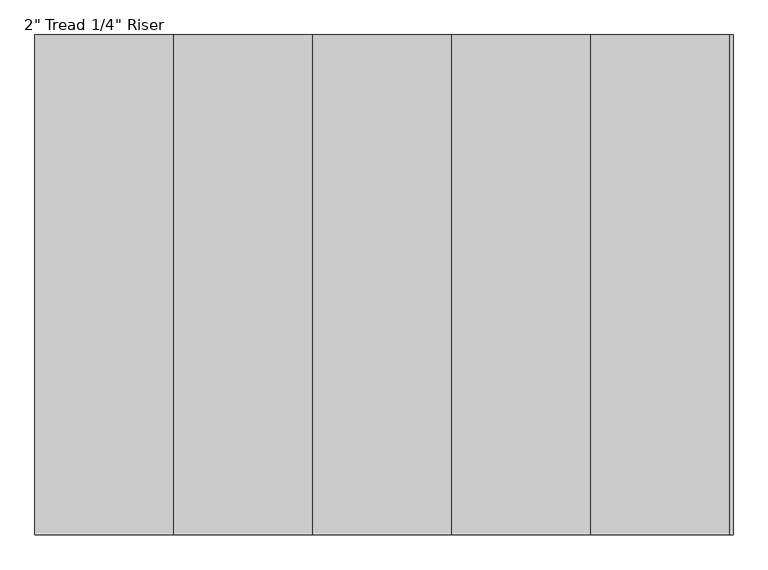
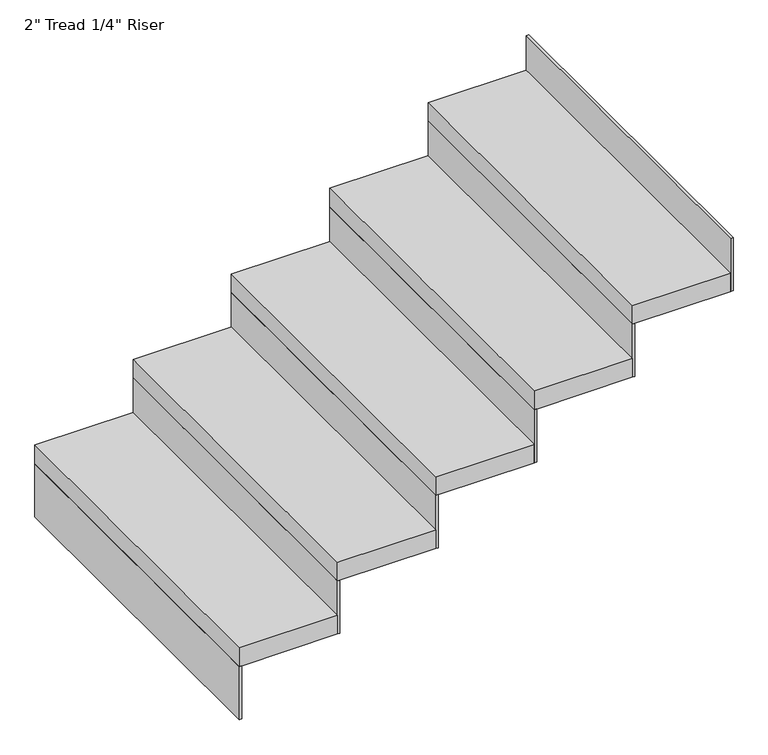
"""IFC4 building model written with IfcOpenShell, lengths in millimetres: stair flight geometry."""

from ifc_helpers import new_model, si_unit, frame, origin, place, context, project, spatial, polyline, outline, extrude, source, transform, mapped, element, save


def stair_flight_d8697efd(model_context):
    return source(origin(), model_context, "Body", "SweptSolid", [
        extrude(outline(polyline([(162625.1811068, -18868.6990002), (162618.8311068, -18868.6990002), (162618.8311068, -17954.2990002), (162625.1811068, -17954.2990002), (162625.1811068, -18868.6990002)])), frame((0.0, 0.0, 2126.3428571), z_axis=(0.0, 0.0, 1.0), x_axis=(1.0, 0.0, 0.0)), (0.0, 0.0, 1.0), 145.1428571),
        extrude(outline(polyline([(162872.8311068, -17954.2990002), (162872.8311068, -18868.6990002), (162618.8311068, -18868.6990002), (162618.8311068, -17954.2990002), (162872.8311068, -17954.2990002)])), frame((0.0, 0.0, 2271.4857143), z_axis=(0.0, 0.0, 1.0), x_axis=(1.0, 0.0, 0.0)), (0.0, 0.0, 1.0), 50.8),
        extrude(outline(polyline([(162879.1811068, -18868.6990002), (162872.8311068, -18868.6990002), (162872.8311068, -17954.2990002), (162879.1811068, -17954.2990002), (162879.1811068, -18868.6990002)])), frame((0.0, 0.0, 2271.4857143), z_axis=(0.0, 0.0, 1.0), x_axis=(1.0, 0.0, 0.0)), (0.0, 0.0, 1.0), 145.1428571),
        extrude(outline(polyline([(163126.8311068, -17954.2990002), (163126.8311068, -18868.6990002), (162872.8311068, -18868.6990002), (162872.8311068, -17954.2990002), (163126.8311068, -17954.2990002)])), frame((0.0, 0.0, 2416.6285714), z_axis=(0.0, 0.0, 1.0), x_axis=(1.0, 0.0, 0.0)), (0.0, 0.0, 1.0), 50.8),
        extrude(outline(polyline([(163133.1811068, -18868.6990002), (163126.8311068, -18868.6990002), (163126.8311068, -17954.2990002), (163133.1811068, -17954.2990002), (163133.1811068, -18868.6990002)])), frame((0.0, 0.0, 2416.6285714), z_axis=(0.0, 0.0, 1.0), x_axis=(1.0, 0.0, 0.0)), (0.0, 0.0, 1.0), 145.1428571),
        extrude(outline(polyline([(163380.8311068, -17954.2990002), (163380.8311068, -18868.6990002), (163126.8311068, -18868.6990002), (163126.8311068, -17954.2990002), (163380.8311068, -17954.2990002)])), frame((0.0, 0.0, 2561.7714286), z_axis=(0.0, 0.0, 1.0), x_axis=(1.0, 0.0, 0.0)), (0.0, 0.0, 1.0), 50.8),
        extrude(outline(polyline([(163387.1811068, -18868.6990002), (163380.8311068, -18868.6990002), (163380.8311068, -17954.2990002), (163387.1811068, -17954.2990002), (163387.1811068, -18868.6990002)])), frame((0.0, 0.0, 2561.7714286), z_axis=(0.0, 0.0, 1.0), x_axis=(1.0, 0.0, 0.0)), (0.0, 0.0, 1.0), 145.1428571),
        extrude(outline(polyline([(163634.8311068, -17954.2990002), (163634.8311068, -18868.6990002), (163380.8311068, -18868.6990002), (163380.8311068, -17954.2990002), (163634.8311068, -17954.2990002)])), frame((0.0, 0.0, 2706.9142857), z_axis=(0.0, 0.0, 1.0), x_axis=(1.0, 0.0, 0.0)), (0.0, 0.0, 1.0), 50.8),
        extrude(outline(polyline([(163641.1811068, -18868.6990002), (163634.8311068, -18868.6990002), (163634.8311068, -17954.2990002), (163641.1811068, -17954.2990002), (163641.1811068, -18868.6990002)])), frame((0.0, 0.0, 2706.9142857), z_axis=(0.0, 0.0, 1.0), x_axis=(1.0, 0.0, 0.0)), (0.0, 0.0, 1.0), 145.1428571),
        extrude(outline(polyline([(163895.1811068, -18868.6990002), (163888.8311068, -18868.6990002), (163888.8311068, -17954.2990002), (163895.1811068, -17954.2990002), (163895.1811068, -18868.6990002)])), frame((0.0, 0.0, 2852.0571429), z_axis=(0.0, 0.0, 1.0), x_axis=(1.0, 0.0, 0.0)), (0.0, 0.0, 1.0), 145.1428571),
        extrude(outline(polyline([(163888.8311068, -17954.2990002), (163888.8311068, -18868.6990002), (163634.8311068, -18868.6990002), (163634.8311068, -17954.2990002), (163888.8311068, -17954.2990002)])), frame((0.0, 0.0, 2852.0571429), z_axis=(0.0, 0.0, 1.0), x_axis=(1.0, 0.0, 0.0)), (0.0, 0.0, 1.0), 50.8),
    ])


if __name__ == "__main__":
    model = new_model("IFC4")
    model_context = context("Model", 3, world=origin())
    ifc_project = project(units=[si_unit("LENGTHUNIT", "METRE", prefix="MILLI")], contexts=[model_context])
    site = spatial("IfcSite", under=ifc_project)
    building = spatial("IfcBuilding", under=site)
    placement = place(None, origin())
    stair_flight_shape = stair_flight_d8697efd(model_context)
    element("IfcStairFlight", 1, ObjectType="2\" Tread 1/4\" Riser", at=placement, inside=building, context=model_context, shape_type="MappedRepresentation", body=[
        mapped(stair_flight_shape, transform((0.0, 0.0, 0.0), x_axis=(1.0, 0.0, 0.0), y_axis=(0.0, 1.0, 0.0), z_axis=(0.0, 0.0, 1.0))),
    ])
    save(model, "model.ifc")
